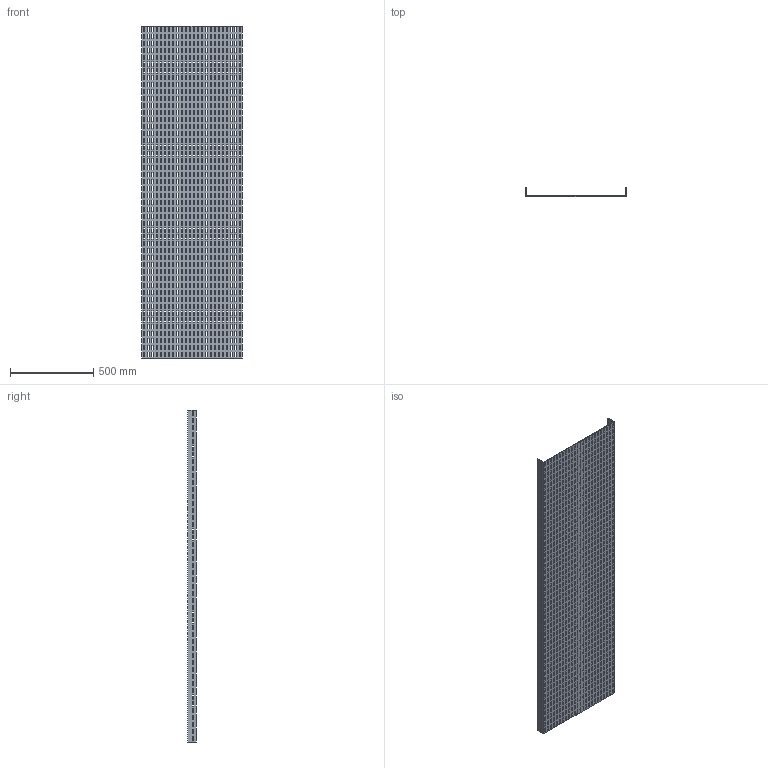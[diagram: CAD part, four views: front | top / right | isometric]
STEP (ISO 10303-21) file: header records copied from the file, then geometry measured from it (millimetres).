
FILE_DESCRIPTION (( 'STEP AP214' ), '1' );
FILE_NAME ('01F2B600.step', '2025-02-21T13:19:00', ( '' ), ( '' ), 'SwSTEP 2.0', 'SolidWorks 2023', '' );
FILE_SCHEMA (( 'AUTOMOTIVE_DESIGN' ));
Products named in the file (1): 01F2B600
Bounding box: 604 x 52 x 2000 mm (x, y, z)
Volume: 4142600 mm3; surface area: 2665659 mm2
Topology: 1 solids, 1 shells, 5002 faces, 15000 edges, 10000 vertices
Faces by surface type: plane 5002
Entity records: 170039 total; most frequent: CARTESIAN_POINT 30003, ORIENTED_EDGE 30000, DIRECTION 25006, EDGE_CURVE 15000, VECTOR 15000, LINE 15000, VERTEX_POINT 10000, EDGE_LOOP 7498
